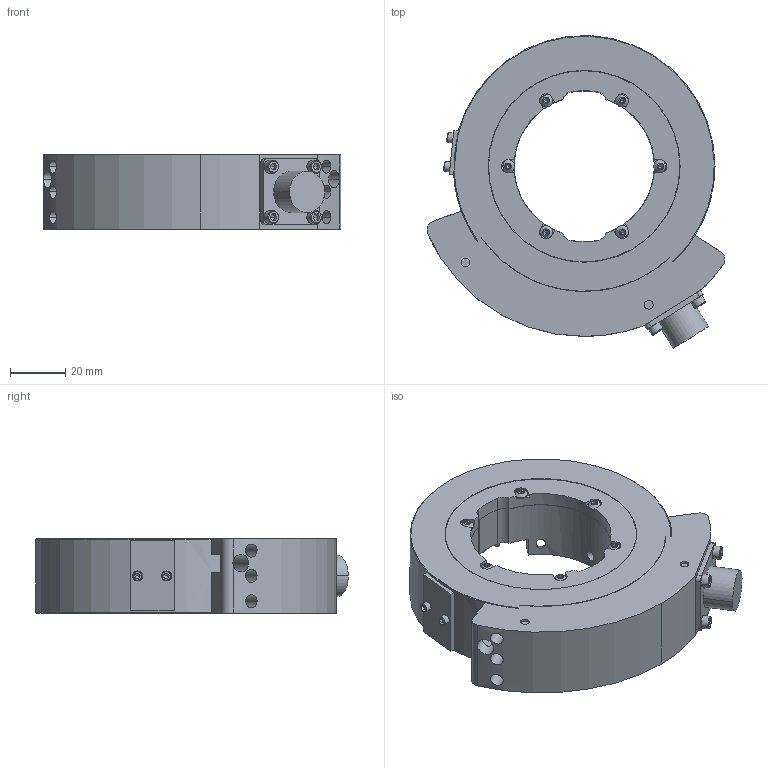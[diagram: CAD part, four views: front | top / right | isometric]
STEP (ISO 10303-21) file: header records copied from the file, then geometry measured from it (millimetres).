
FILE_DESCRIPTION (( 'STEP AP203' ), '1' );
FILE_NAME ('B4-2-CM.STEP', '2017-06-23T12:59:30', ( '' ), ( '' ), 'SwSTEP 2.0', 'SolidWorks 2014', '' );
FILE_SCHEMA (( 'CONFIG_CONTROL_DESIGN' ));
Length unit declared in the file: inch
Products named in the file (1): B4-2-CM
Bounding box: 107.86 x 113.2 x 27 mm (x, y, z)
Volume: 169775.6 mm3; surface area: 33493.5 mm2
Topology: 1 solids, 24 shells, 862 faces, 2182 edges, 1409 vertices
Faces by surface type: plane 396, cylinder 323, cone 79, bspline 64
Entity records: 34295 total; most frequent: CARTESIAN_POINT 13954, ORIENTED_EDGE 4292, DIRECTION 4061, EDGE_CURVE 2146, AXIS2_PLACEMENT_3D 1562, VERTEX_POINT 1409, EDGE_LOOP 991, VECTOR 937
